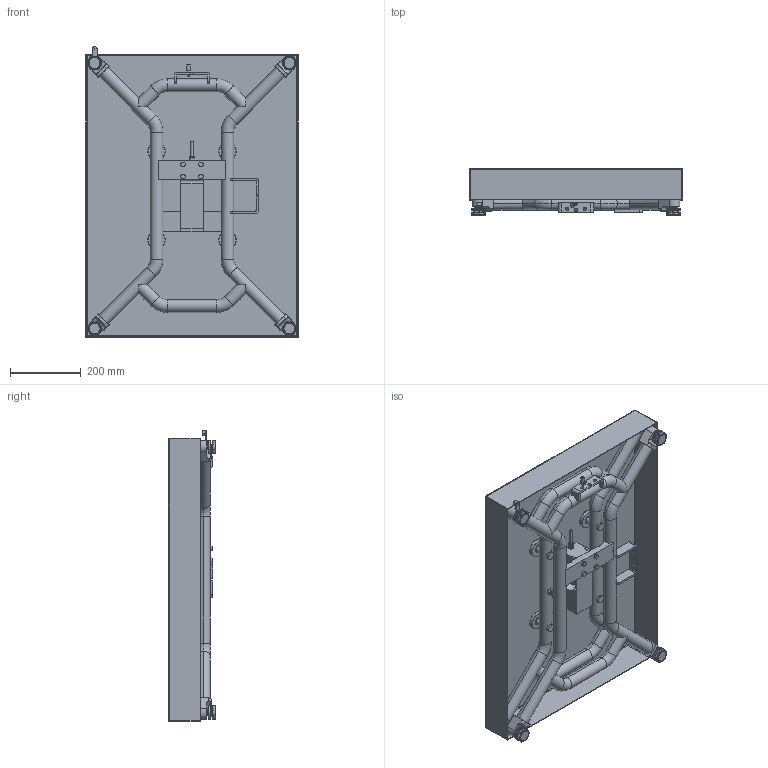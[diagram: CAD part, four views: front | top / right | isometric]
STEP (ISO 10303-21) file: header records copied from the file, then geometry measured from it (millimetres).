
FILE_DESCRIPTION((''),'2;1');
FILE_NAME('PBA639_PBD659_CC_SIZE','2022-03-16T10:02:32',('sun-135'),(''),'CREO PARAMETRIC BY PTC INC, 2018260','CREO PARAMETRIC BY PTC INC, 2018260','');
FILE_SCHEMA(('CONFIG_CONTROL_DESIGN'));
Products named in the file (1): PBA639_PBD659_CC_SIZE
Bounding box: 600 x 134 x 821 mm (x, y, z)
Volume: 4441395.6 mm3; surface area: 2710358.7 mm2
Topology: 2 solids, 122 shells, 2486 faces, 6020 edges, 3762 vertices
Faces by surface type: cylinder 745, plane 667, cone 596, torus 246, bspline 232
Entity records: 89732 total; most frequent: CARTESIAN_POINT 34243, ORIENTED_EDGE 11672, DIRECTION 11072, EDGE_CURVE 5966, AXIS2_PLACEMENT_3D 4429, VERTEX_POINT 3762, EDGE_LOOP 2720, FACE_OUTER_BOUND 2486
